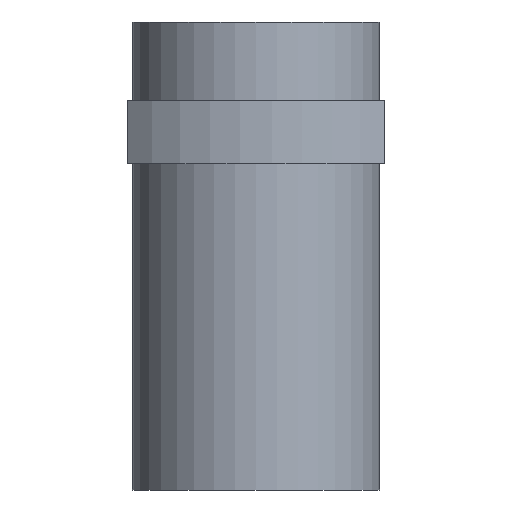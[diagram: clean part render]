
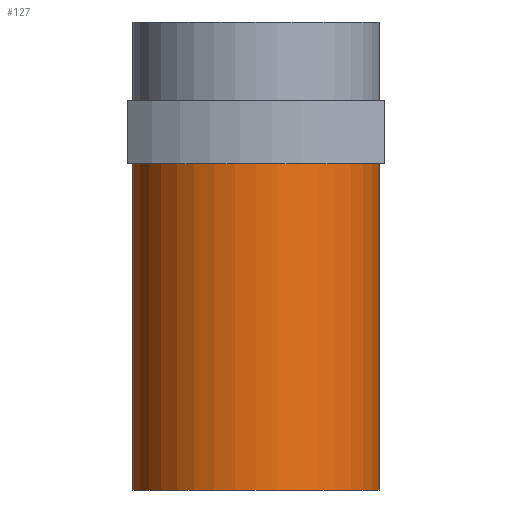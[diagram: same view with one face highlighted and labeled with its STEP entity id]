
A CAD part, front view. The second image highlights one B-rep face of the part: STEP entity #127.
In plain terms, the highlighted cylindrical face has radius 23.5 mm (diameter 47 mm), a partial arc.
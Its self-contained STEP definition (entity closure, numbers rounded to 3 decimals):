
#127=ADVANCED_FACE('',(#264),#265,.T.);
#264=FACE_OUTER_BOUND('',#397,.T.);
#265=CYLINDRICAL_SURFACE('',#398,23.5);
#397=EDGE_LOOP('',(#700,#701,#702,#703));
#398=AXIS2_PLACEMENT_3D('',#704,#705,#706);
#700=ORIENTED_EDGE('',*,*,#737,.T.);
#701=ORIENTED_EDGE('',*,*,#849,.F.);
#702=ORIENTED_EDGE('',*,*,#739,.T.);
#703=ORIENTED_EDGE('',*,*,#846,.T.);
#704=CARTESIAN_POINT('',(0.,0.0,-44.5));
#705=DIRECTION('',(0.,0.0,-1.0));
#706=DIRECTION('',(-1.0,0.0,0.));
#737=EDGE_CURVE('',#864,#865,#866,.T.);
#739=EDGE_CURVE('',#869,#867,#870,.T.);
#846=EDGE_CURVE('',#867,#864,#1023,.T.);
#849=EDGE_CURVE('',#869,#865,#1026,.T.);
#864=VERTEX_POINT('',#1043);
#865=VERTEX_POINT('',#1044);
#866=LINE('',#1045,#1046);
#867=VERTEX_POINT('',#1047);
#869=VERTEX_POINT('',#1049);
#870=LINE('',#1050,#1051);
#1023=CIRCLE('',#1352,23.5);
#1026=CIRCLE('',#1355,23.5);
#1043=CARTESIAN_POINT('',(-23.5,0.,-27.0));
#1044=CARTESIAN_POINT('',(-23.5,0.0,-89.0));
#1045=CARTESIAN_POINT('',(-23.5,0.,-44.5));
#1046=VECTOR('',#1368,1.0);
#1047=CARTESIAN_POINT('',(23.5,0.,-27.0));
#1049=CARTESIAN_POINT('',(23.5,0.,-89.0));
#1050=CARTESIAN_POINT('',(23.5,0.,-44.5));
#1051=VECTOR('',#1372,1.0);
#1352=AXIS2_PLACEMENT_3D('',#1525,#1526,#1527);
#1355=AXIS2_PLACEMENT_3D('',#1528,#1529,#1530);
#1368=DIRECTION('',(0.,0.0,-1.0));
#1372=DIRECTION('',(0.,-0.0,1.0));
#1525=CARTESIAN_POINT('',(0.,0.0,-27.0));
#1526=DIRECTION('',(0.,0.0,-1.0));
#1527=DIRECTION('',(-1.0,0.0,0.));
#1528=CARTESIAN_POINT('',(0.,0.0,-89.0));
#1529=DIRECTION('',(0.,0.0,-1.0));
#1530=DIRECTION('',(-1.0,0.0,0.));
